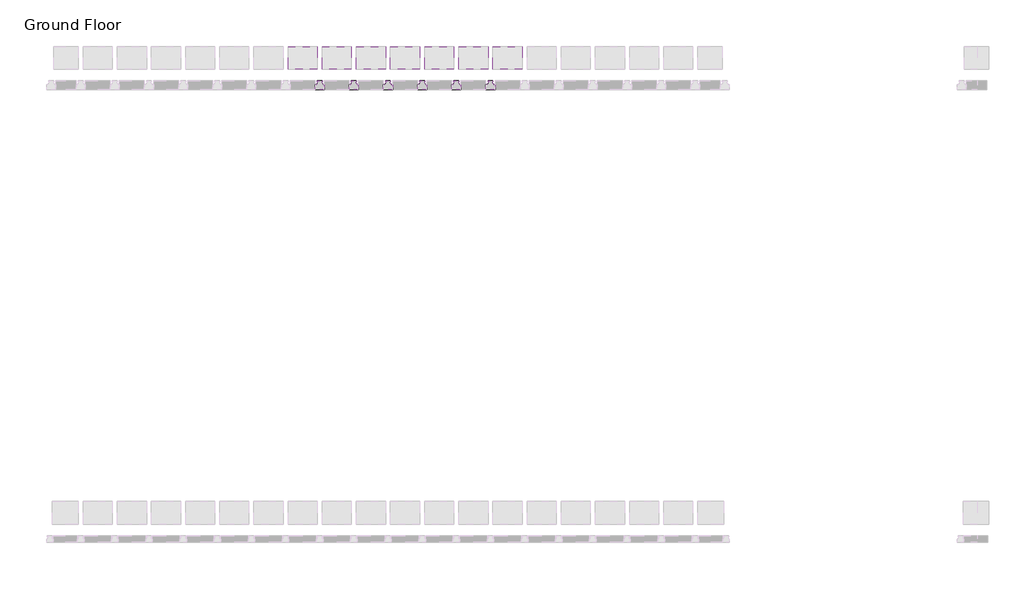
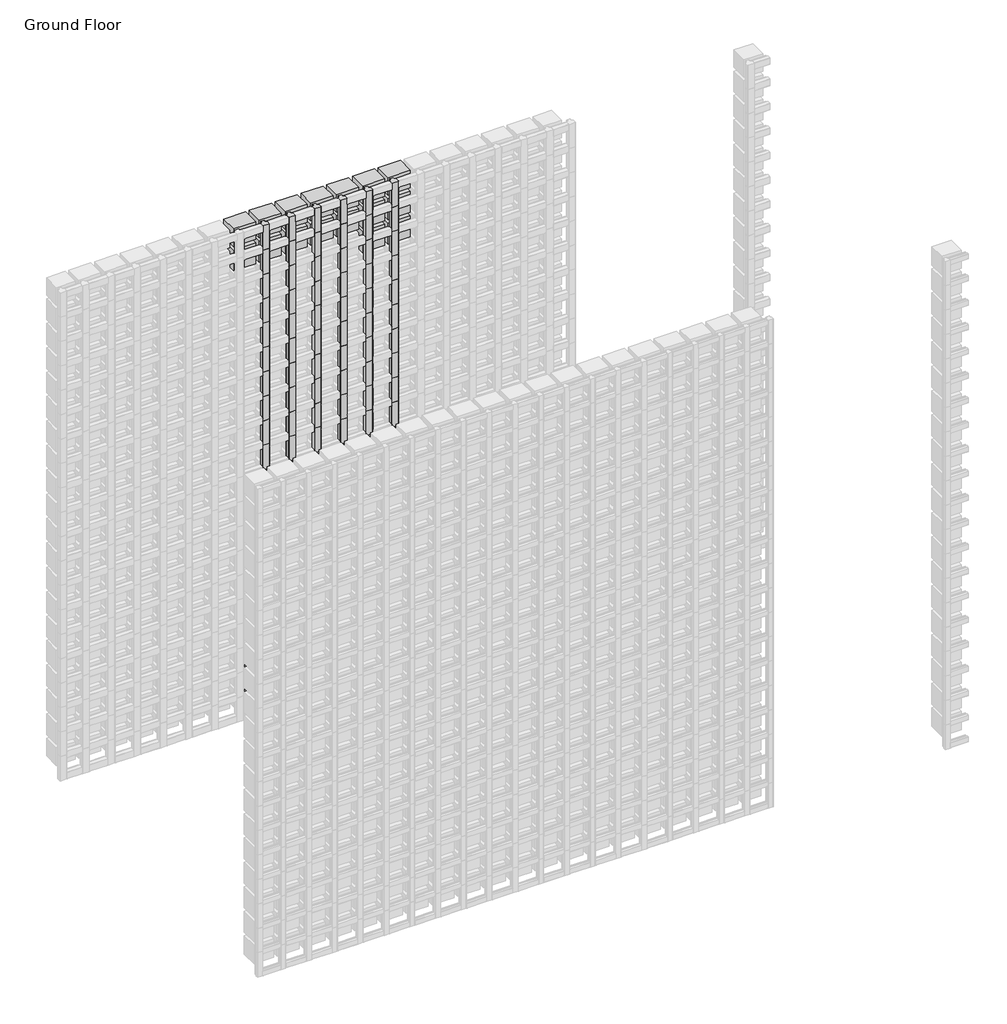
# One storey, part 113 of 350: 128 members, 16 plates.
"""IFC4 building model written with IfcOpenShell, lengths in millimetres."""

from ifc_helpers import new_model, si_unit, origin, place, context, project, spatial, transform, mapped, element, save
from components import rectangular_mullion_84e0df2e, rectangular_mullion_c1c7f7ba, empty_system_panel_empty_5a3607ba, empty_system_panel_empty_5e80e148

model = new_model("IFC4")

# Units and contexts
model_context = context("Model", 3, world=origin())
ifc_project = project(units=[si_unit("LENGTHUNIT", "METRE", prefix="MILLI")], contexts=[model_context])

# Site, building, storey
site = spatial("IfcSite", under=ifc_project)
building = spatial("IfcBuilding", under=site)
storey = spatial("IfcBuildingStorey", under=building, Name="Ground Floor", Elevation=0.0)

# Members
placement = place(None, origin())
rectangular_mullion_shape = rectangular_mullion_84e0df2e(model_context)
element("IfcMember", 1, ObjectType="Rectangular Mullion : Batten_Timber_Modinex_Austratus_Grid_Fin_40x40_AlaskanYellowCedar", at=placement, inside=storey, context=model_context, shape_type="MappedRepresentation", body=[
    mapped(rectangular_mullion_shape, transform((3116.4361642, 44968.2978302, 150.0), x_axis=(1.0, 0.0, 0.0), y_axis=(0.0, -1.0, 0.0), z_axis=(0.0, 0.0, -1.0))),
])
element("IfcMember", 2, ObjectType="Rectangular Mullion : Batten_Timber_Modinex_Austratus_Grid_Fin_40x40_AlaskanYellowCedar", at=placement, inside=storey, context=model_context, shape_type="MappedRepresentation", body=[
    mapped(rectangular_mullion_shape, transform((3116.4361642, 44968.2978302, 300.0), x_axis=(1.0, 0.0, 0.0), y_axis=(0.0, -1.0, 0.0), z_axis=(0.0, 0.0, -1.0))),
])
element("IfcMember", 3, ObjectType="Rectangular Mullion : Batten_Timber_Modinex_Austratus_Grid_Fin_40x40_AlaskanYellowCedar", at=placement, inside=storey, context=model_context, shape_type="MappedRepresentation", body=[
    mapped(rectangular_mullion_shape, transform((3116.4361642, 44968.2978302, 450.0), x_axis=(1.0, 0.0, 0.0), y_axis=(0.0, -1.0, 0.0), z_axis=(0.0, 0.0, -1.0))),
])
element("IfcMember", 4, ObjectType="Rectangular Mullion : Batten_Timber_Modinex_Austratus_Grid_Fin_40x40_AlaskanYellowCedar", at=placement, inside=storey, context=model_context, shape_type="MappedRepresentation", body=[
    mapped(rectangular_mullion_shape, transform((3116.4361642, 44968.2978302, 600.0), x_axis=(1.0, 0.0, 0.0), y_axis=(0.0, -1.0, 0.0), z_axis=(0.0, 0.0, -1.0))),
])
element("IfcMember", 5, ObjectType="Rectangular Mullion : Batten_Timber_Modinex_Austratus_Grid_Fin_40x40_AlaskanYellowCedar", at=placement, inside=storey, context=model_context, shape_type="MappedRepresentation", body=[
    mapped(rectangular_mullion_shape, transform((3116.4361642, 44968.2978302, 750.0), x_axis=(1.0, 0.0, 0.0), y_axis=(0.0, -1.0, 0.0), z_axis=(0.0, 0.0, -1.0))),
])
element("IfcMember", 6, ObjectType="Rectangular Mullion : Batten_Timber_Modinex_Austratus_Grid_Fin_40x40_AlaskanYellowCedar", at=placement, inside=storey, context=model_context, shape_type="MappedRepresentation", body=[
    mapped(rectangular_mullion_shape, transform((3116.4361642, 44968.2978302, 900.0), x_axis=(1.0, 0.0, 0.0), y_axis=(0.0, -1.0, 0.0), z_axis=(0.0, 0.0, -1.0))),
])
element("IfcMember", 7, ObjectType="Rectangular Mullion : Batten_Timber_Modinex_Austratus_Grid_Fin_40x40_AlaskanYellowCedar", at=placement, inside=storey, context=model_context, shape_type="MappedRepresentation", body=[
    mapped(rectangular_mullion_shape, transform((3116.4361642, 44968.2978302, 1050.0), x_axis=(1.0, 0.0, 0.0), y_axis=(0.0, -1.0, 0.0), z_axis=(0.0, 0.0, -1.0))),
])
element("IfcMember", 8, ObjectType="Rectangular Mullion : Batten_Timber_Modinex_Austratus_Grid_Fin_40x40_AlaskanYellowCedar", at=placement, inside=storey, context=model_context, shape_type="MappedRepresentation", body=[
    mapped(rectangular_mullion_shape, transform((3116.4361642, 44968.2978302, 1200.0), x_axis=(1.0, 0.0, 0.0), y_axis=(0.0, -1.0, 0.0), z_axis=(0.0, 0.0, -1.0))),
])
element("IfcMember", 9, ObjectType="Rectangular Mullion : Batten_Timber_Modinex_Austratus_Grid_Fin_40x40_AlaskanYellowCedar", at=placement, inside=storey, context=model_context, shape_type="MappedRepresentation", body=[
    mapped(rectangular_mullion_shape, transform((3116.4361642, 44968.2978302, 1350.0), x_axis=(1.0, 0.0, 0.0), y_axis=(0.0, -1.0, 0.0), z_axis=(0.0, 0.0, -1.0))),
])
element("IfcMember", 10, ObjectType="Rectangular Mullion : Batten_Timber_Modinex_Austratus_Grid_Fin_40x40_AlaskanYellowCedar", at=placement, inside=storey, context=model_context, shape_type="MappedRepresentation", body=[
    mapped(rectangular_mullion_shape, transform((3116.4361642, 44968.2978302, 1500.0), x_axis=(1.0, 0.0, 0.0), y_axis=(0.0, -1.0, 0.0), z_axis=(0.0, 0.0, -1.0))),
])
element("IfcMember", 11, ObjectType="Rectangular Mullion : Batten_Timber_Modinex_Austratus_Grid_Fin_40x40_AlaskanYellowCedar", at=placement, inside=storey, context=model_context, shape_type="MappedRepresentation", body=[
    mapped(rectangular_mullion_shape, transform((3116.4361642, 44968.2978302, 1650.0), x_axis=(1.0, 0.0, 0.0), y_axis=(0.0, -1.0, 0.0), z_axis=(0.0, 0.0, -1.0))),
])
element("IfcMember", 12, ObjectType="Rectangular Mullion : Batten_Timber_Modinex_Austratus_Grid_Fin_40x40_AlaskanYellowCedar", at=placement, inside=storey, context=model_context, shape_type="MappedRepresentation", body=[
    mapped(rectangular_mullion_shape, transform((3116.4361642, 44968.2978302, 1800.0), x_axis=(1.0, 0.0, 0.0), y_axis=(0.0, -1.0, 0.0), z_axis=(0.0, 0.0, -1.0))),
])
element("IfcMember", 13, ObjectType="Rectangular Mullion : Batten_Timber_Modinex_Austratus_Grid_Fin_40x40_AlaskanYellowCedar", at=placement, inside=storey, context=model_context, shape_type="MappedRepresentation", body=[
    mapped(rectangular_mullion_shape, transform((3116.4361642, 44968.2978302, 1950.0), x_axis=(1.0, 0.0, 0.0), y_axis=(0.0, -1.0, 0.0), z_axis=(0.0, 0.0, -1.0))),
])
element("IfcMember", 14, ObjectType="Rectangular Mullion : Batten_Timber_Modinex_Austratus_Grid_Fin_40x40_AlaskanYellowCedar", at=placement, inside=storey, context=model_context, shape_type="MappedRepresentation", body=[
    mapped(rectangular_mullion_shape, transform((3116.4361642, 44968.2978302, 2100.0), x_axis=(1.0, 0.0, 0.0), y_axis=(0.0, -1.0, 0.0), z_axis=(0.0, 0.0, -1.0))),
])
element("IfcMember", 15, ObjectType="Rectangular Mullion : Batten_Timber_Modinex_Austratus_Grid_Fin_40x40_AlaskanYellowCedar", at=placement, inside=storey, context=model_context, shape_type="MappedRepresentation", body=[
    mapped(rectangular_mullion_shape, transform((3116.4361642, 44968.2978302, 2250.0), x_axis=(1.0, 0.0, 0.0), y_axis=(0.0, -1.0, 0.0), z_axis=(0.0, 0.0, -1.0))),
])
element("IfcMember", 16, ObjectType="Rectangular Mullion : Batten_Timber_Modinex_Austratus_Grid_Fin_40x40_AlaskanYellowCedar", at=placement, inside=storey, context=model_context, shape_type="MappedRepresentation", body=[
    mapped(rectangular_mullion_shape, transform((3116.4361642, 44968.2978302, 2400.0), x_axis=(1.0, 0.0, 0.0), y_axis=(0.0, -1.0, 0.0), z_axis=(0.0, 0.0, -1.0))),
])
element("IfcMember", 17, ObjectType="Rectangular Mullion : Batten_Timber_Modinex_Austratus_Grid_Fin_40x40_AlaskanYellowCedar", at=placement, inside=storey, context=model_context, shape_type="MappedRepresentation", body=[
    mapped(rectangular_mullion_shape, transform((3116.4361642, 44968.2978302, 2550.0), x_axis=(1.0, 0.0, 0.0), y_axis=(0.0, -1.0, 0.0), z_axis=(0.0, 0.0, -1.0))),
])
element("IfcMember", 18, ObjectType="Rectangular Mullion : Batten_Timber_Modinex_Austratus_Grid_Fin_40x40_AlaskanYellowCedar", at=placement, inside=storey, context=model_context, shape_type="MappedRepresentation", body=[
    mapped(rectangular_mullion_shape, transform((3116.4361642, 44968.2978302, 2700.0), x_axis=(1.0, 0.0, 0.0), y_axis=(0.0, -1.0, 0.0), z_axis=(0.0, 0.0, -1.0))),
])
element("IfcMember", 19, ObjectType="Rectangular Mullion : Batten_Timber_Modinex_Austratus_Grid_Fin_40x40_AlaskanYellowCedar", at=placement, inside=storey, context=model_context, shape_type="MappedRepresentation", body=[
    mapped(rectangular_mullion_shape, transform((3266.4361642, 44968.2978302, 150.0), x_axis=(1.0, 0.0, 0.0), y_axis=(0.0, -1.0, 0.0), z_axis=(0.0, 0.0, -1.0))),
])
element("IfcMember", 20, ObjectType="Rectangular Mullion : Batten_Timber_Modinex_Austratus_Grid_Fin_40x40_AlaskanYellowCedar", at=placement, inside=storey, context=model_context, shape_type="MappedRepresentation", body=[
    mapped(rectangular_mullion_shape, transform((3266.4361642, 44968.2978302, 300.0), x_axis=(1.0, 0.0, 0.0), y_axis=(0.0, -1.0, 0.0), z_axis=(0.0, 0.0, -1.0))),
])
element("IfcMember", 21, ObjectType="Rectangular Mullion : Batten_Timber_Modinex_Austratus_Grid_Fin_40x40_AlaskanYellowCedar", at=placement, inside=storey, context=model_context, shape_type="MappedRepresentation", body=[
    mapped(rectangular_mullion_shape, transform((3266.4361642, 44968.2978302, 450.0), x_axis=(1.0, 0.0, 0.0), y_axis=(0.0, -1.0, 0.0), z_axis=(0.0, 0.0, -1.0))),
])
element("IfcMember", 22, ObjectType="Rectangular Mullion : Batten_Timber_Modinex_Austratus_Grid_Fin_40x40_AlaskanYellowCedar", at=placement, inside=storey, context=model_context, shape_type="MappedRepresentation", body=[
    mapped(rectangular_mullion_shape, transform((3266.4361642, 44968.2978302, 600.0), x_axis=(1.0, 0.0, 0.0), y_axis=(0.0, -1.0, 0.0), z_axis=(0.0, 0.0, -1.0))),
])
element("IfcMember", 23, ObjectType="Rectangular Mullion : Batten_Timber_Modinex_Austratus_Grid_Fin_40x40_AlaskanYellowCedar", at=placement, inside=storey, context=model_context, shape_type="MappedRepresentation", body=[
    mapped(rectangular_mullion_shape, transform((3266.4361642, 44968.2978302, 750.0), x_axis=(1.0, 0.0, 0.0), y_axis=(0.0, -1.0, 0.0), z_axis=(0.0, 0.0, -1.0))),
])
element("IfcMember", 24, ObjectType="Rectangular Mullion : Batten_Timber_Modinex_Austratus_Grid_Fin_40x40_AlaskanYellowCedar", at=placement, inside=storey, context=model_context, shape_type="MappedRepresentation", body=[
    mapped(rectangular_mullion_shape, transform((3266.4361642, 44968.2978302, 900.0), x_axis=(1.0, 0.0, 0.0), y_axis=(0.0, -1.0, 0.0), z_axis=(0.0, 0.0, -1.0))),
])
element("IfcMember", 25, ObjectType="Rectangular Mullion : Batten_Timber_Modinex_Austratus_Grid_Fin_40x40_AlaskanYellowCedar", at=placement, inside=storey, context=model_context, shape_type="MappedRepresentation", body=[
    mapped(rectangular_mullion_shape, transform((3266.4361642, 44968.2978302, 1050.0), x_axis=(1.0, 0.0, 0.0), y_axis=(0.0, -1.0, 0.0), z_axis=(0.0, 0.0, -1.0))),
])
element("IfcMember", 26, ObjectType="Rectangular Mullion : Batten_Timber_Modinex_Austratus_Grid_Fin_40x40_AlaskanYellowCedar", at=placement, inside=storey, context=model_context, shape_type="MappedRepresentation", body=[
    mapped(rectangular_mullion_shape, transform((3266.4361642, 44968.2978302, 1200.0), x_axis=(1.0, 0.0, 0.0), y_axis=(0.0, -1.0, 0.0), z_axis=(0.0, 0.0, -1.0))),
])
element("IfcMember", 27, ObjectType="Rectangular Mullion : Batten_Timber_Modinex_Austratus_Grid_Fin_40x40_AlaskanYellowCedar", at=placement, inside=storey, context=model_context, shape_type="MappedRepresentation", body=[
    mapped(rectangular_mullion_shape, transform((3266.4361642, 44968.2978302, 1350.0), x_axis=(1.0, 0.0, 0.0), y_axis=(0.0, -1.0, 0.0), z_axis=(0.0, 0.0, -1.0))),
])
element("IfcMember", 28, ObjectType="Rectangular Mullion : Batten_Timber_Modinex_Austratus_Grid_Fin_40x40_AlaskanYellowCedar", at=placement, inside=storey, context=model_context, shape_type="MappedRepresentation", body=[
    mapped(rectangular_mullion_shape, transform((3266.4361642, 44968.2978302, 1500.0), x_axis=(1.0, 0.0, 0.0), y_axis=(0.0, -1.0, 0.0), z_axis=(0.0, 0.0, -1.0))),
])
element("IfcMember", 29, ObjectType="Rectangular Mullion : Batten_Timber_Modinex_Austratus_Grid_Fin_40x40_AlaskanYellowCedar", at=placement, inside=storey, context=model_context, shape_type="MappedRepresentation", body=[
    mapped(rectangular_mullion_shape, transform((3266.4361642, 44968.2978302, 1650.0), x_axis=(1.0, 0.0, 0.0), y_axis=(0.0, -1.0, 0.0), z_axis=(0.0, 0.0, -1.0))),
])
element("IfcMember", 30, ObjectType="Rectangular Mullion : Batten_Timber_Modinex_Austratus_Grid_Fin_40x40_AlaskanYellowCedar", at=placement, inside=storey, context=model_context, shape_type="MappedRepresentation", body=[
    mapped(rectangular_mullion_shape, transform((3266.4361642, 44968.2978302, 1800.0), x_axis=(1.0, 0.0, 0.0), y_axis=(0.0, -1.0, 0.0), z_axis=(0.0, 0.0, -1.0))),
])
element("IfcMember", 31, ObjectType="Rectangular Mullion : Batten_Timber_Modinex_Austratus_Grid_Fin_40x40_AlaskanYellowCedar", at=placement, inside=storey, context=model_context, shape_type="MappedRepresentation", body=[
    mapped(rectangular_mullion_shape, transform((3266.4361642, 44968.2978302, 1950.0), x_axis=(1.0, 0.0, 0.0), y_axis=(0.0, -1.0, 0.0), z_axis=(0.0, 0.0, -1.0))),
])
element("IfcMember", 32, ObjectType="Rectangular Mullion : Batten_Timber_Modinex_Austratus_Grid_Fin_40x40_AlaskanYellowCedar", at=placement, inside=storey, context=model_context, shape_type="MappedRepresentation", body=[
    mapped(rectangular_mullion_shape, transform((3266.4361642, 44968.2978302, 2100.0), x_axis=(1.0, 0.0, 0.0), y_axis=(0.0, -1.0, 0.0), z_axis=(0.0, 0.0, -1.0))),
])
element("IfcMember", 33, ObjectType="Rectangular Mullion : Batten_Timber_Modinex_Austratus_Grid_Fin_40x40_AlaskanYellowCedar", at=placement, inside=storey, context=model_context, shape_type="MappedRepresentation", body=[
    mapped(rectangular_mullion_shape, transform((3266.4361642, 44968.2978302, 2250.0), x_axis=(1.0, 0.0, 0.0), y_axis=(0.0, -1.0, 0.0), z_axis=(0.0, 0.0, -1.0))),
])
element("IfcMember", 34, ObjectType="Rectangular Mullion : Batten_Timber_Modinex_Austratus_Grid_Fin_40x40_AlaskanYellowCedar", at=placement, inside=storey, context=model_context, shape_type="MappedRepresentation", body=[
    mapped(rectangular_mullion_shape, transform((3266.4361642, 44968.2978302, 2400.0), x_axis=(1.0, 0.0, 0.0), y_axis=(0.0, -1.0, 0.0), z_axis=(0.0, 0.0, -1.0))),
])
element("IfcMember", 35, ObjectType="Rectangular Mullion : Batten_Timber_Modinex_Austratus_Grid_Fin_40x40_AlaskanYellowCedar", at=placement, inside=storey, context=model_context, shape_type="MappedRepresentation", body=[
    mapped(rectangular_mullion_shape, transform((3266.4361642, 44968.2978302, 2550.0), x_axis=(1.0, 0.0, 0.0), y_axis=(0.0, -1.0, 0.0), z_axis=(0.0, 0.0, -1.0))),
])
element("IfcMember", 36, ObjectType="Rectangular Mullion : Batten_Timber_Modinex_Austratus_Grid_Fin_40x40_AlaskanYellowCedar", at=placement, inside=storey, context=model_context, shape_type="MappedRepresentation", body=[
    mapped(rectangular_mullion_shape, transform((3266.4361642, 44968.2978302, 2700.0), x_axis=(1.0, 0.0, 0.0), y_axis=(0.0, -1.0, 0.0), z_axis=(0.0, 0.0, -1.0))),
])
element("IfcMember", 37, ObjectType="Rectangular Mullion : Batten_Timber_Modinex_Austratus_Grid_Fin_40x40_AlaskanYellowCedar", at=placement, inside=storey, context=model_context, shape_type="MappedRepresentation", body=[
    mapped(rectangular_mullion_shape, transform((3416.4361642, 44968.2978302, 150.0), x_axis=(1.0, 0.0, 0.0), y_axis=(0.0, -1.0, 0.0), z_axis=(0.0, 0.0, -1.0))),
])
element("IfcMember", 38, ObjectType="Rectangular Mullion : Batten_Timber_Modinex_Austratus_Grid_Fin_40x40_AlaskanYellowCedar", at=placement, inside=storey, context=model_context, shape_type="MappedRepresentation", body=[
    mapped(rectangular_mullion_shape, transform((3416.4361642, 44968.2978302, 300.0), x_axis=(1.0, 0.0, 0.0), y_axis=(0.0, -1.0, 0.0), z_axis=(0.0, 0.0, -1.0))),
])
element("IfcMember", 39, ObjectType="Rectangular Mullion : Batten_Timber_Modinex_Austratus_Grid_Fin_40x40_AlaskanYellowCedar", at=placement, inside=storey, context=model_context, shape_type="MappedRepresentation", body=[
    mapped(rectangular_mullion_shape, transform((3416.4361642, 44968.2978302, 450.0), x_axis=(1.0, 0.0, 0.0), y_axis=(0.0, -1.0, 0.0), z_axis=(0.0, 0.0, -1.0))),
])
element("IfcMember", 40, ObjectType="Rectangular Mullion : Batten_Timber_Modinex_Austratus_Grid_Fin_40x40_AlaskanYellowCedar", at=placement, inside=storey, context=model_context, shape_type="MappedRepresentation", body=[
    mapped(rectangular_mullion_shape, transform((3416.4361642, 44968.2978302, 600.0), x_axis=(1.0, 0.0, 0.0), y_axis=(0.0, -1.0, 0.0), z_axis=(0.0, 0.0, -1.0))),
])
element("IfcMember", 41, ObjectType="Rectangular Mullion : Batten_Timber_Modinex_Austratus_Grid_Fin_40x40_AlaskanYellowCedar", at=placement, inside=storey, context=model_context, shape_type="MappedRepresentation", body=[
    mapped(rectangular_mullion_shape, transform((3416.4361642, 44968.2978302, 750.0), x_axis=(1.0, 0.0, 0.0), y_axis=(0.0, -1.0, 0.0), z_axis=(0.0, 0.0, -1.0))),
])
element("IfcMember", 42, ObjectType="Rectangular Mullion : Batten_Timber_Modinex_Austratus_Grid_Fin_40x40_AlaskanYellowCedar", at=placement, inside=storey, context=model_context, shape_type="MappedRepresentation", body=[
    mapped(rectangular_mullion_shape, transform((3416.4361642, 44968.2978302, 900.0), x_axis=(1.0, 0.0, 0.0), y_axis=(0.0, -1.0, 0.0), z_axis=(0.0, 0.0, -1.0))),
])
element("IfcMember", 43, ObjectType="Rectangular Mullion : Batten_Timber_Modinex_Austratus_Grid_Fin_40x40_AlaskanYellowCedar", at=placement, inside=storey, context=model_context, shape_type="MappedRepresentation", body=[
    mapped(rectangular_mullion_shape, transform((3416.4361642, 44968.2978302, 1050.0), x_axis=(1.0, 0.0, 0.0), y_axis=(0.0, -1.0, 0.0), z_axis=(0.0, 0.0, -1.0))),
])
element("IfcMember", 44, ObjectType="Rectangular Mullion : Batten_Timber_Modinex_Austratus_Grid_Fin_40x40_AlaskanYellowCedar", at=placement, inside=storey, context=model_context, shape_type="MappedRepresentation", body=[
    mapped(rectangular_mullion_shape, transform((3416.4361642, 44968.2978302, 1200.0), x_axis=(1.0, 0.0, 0.0), y_axis=(0.0, -1.0, 0.0), z_axis=(0.0, 0.0, -1.0))),
])
element("IfcMember", 45, ObjectType="Rectangular Mullion : Batten_Timber_Modinex_Austratus_Grid_Fin_40x40_AlaskanYellowCedar", at=placement, inside=storey, context=model_context, shape_type="MappedRepresentation", body=[
    mapped(rectangular_mullion_shape, transform((3416.4361642, 44968.2978302, 1350.0), x_axis=(1.0, 0.0, 0.0), y_axis=(0.0, -1.0, 0.0), z_axis=(0.0, 0.0, -1.0))),
])
element("IfcMember", 46, ObjectType="Rectangular Mullion : Batten_Timber_Modinex_Austratus_Grid_Fin_40x40_AlaskanYellowCedar", at=placement, inside=storey, context=model_context, shape_type="MappedRepresentation", body=[
    mapped(rectangular_mullion_shape, transform((3416.4361642, 44968.2978302, 1500.0), x_axis=(1.0, 0.0, 0.0), y_axis=(0.0, -1.0, 0.0), z_axis=(0.0, 0.0, -1.0))),
])
element("IfcMember", 47, ObjectType="Rectangular Mullion : Batten_Timber_Modinex_Austratus_Grid_Fin_40x40_AlaskanYellowCedar", at=placement, inside=storey, context=model_context, shape_type="MappedRepresentation", body=[
    mapped(rectangular_mullion_shape, transform((3416.4361642, 44968.2978302, 1650.0), x_axis=(1.0, 0.0, 0.0), y_axis=(0.0, -1.0, 0.0), z_axis=(0.0, 0.0, -1.0))),
])
element("IfcMember", 48, ObjectType="Rectangular Mullion : Batten_Timber_Modinex_Austratus_Grid_Fin_40x40_AlaskanYellowCedar", at=placement, inside=storey, context=model_context, shape_type="MappedRepresentation", body=[
    mapped(rectangular_mullion_shape, transform((3416.4361642, 44968.2978302, 1800.0), x_axis=(1.0, 0.0, 0.0), y_axis=(0.0, -1.0, 0.0), z_axis=(0.0, 0.0, -1.0))),
])
element("IfcMember", 49, ObjectType="Rectangular Mullion : Batten_Timber_Modinex_Austratus_Grid_Fin_40x40_AlaskanYellowCedar", at=placement, inside=storey, context=model_context, shape_type="MappedRepresentation", body=[
    mapped(rectangular_mullion_shape, transform((3416.4361642, 44968.2978302, 1950.0), x_axis=(1.0, 0.0, 0.0), y_axis=(0.0, -1.0, 0.0), z_axis=(0.0, 0.0, -1.0))),
])
element("IfcMember", 50, ObjectType="Rectangular Mullion : Batten_Timber_Modinex_Austratus_Grid_Fin_40x40_AlaskanYellowCedar", at=placement, inside=storey, context=model_context, shape_type="MappedRepresentation", body=[
    mapped(rectangular_mullion_shape, transform((3416.4361642, 44968.2978302, 2100.0), x_axis=(1.0, 0.0, 0.0), y_axis=(0.0, -1.0, 0.0), z_axis=(0.0, 0.0, -1.0))),
])
element("IfcMember", 51, ObjectType="Rectangular Mullion : Batten_Timber_Modinex_Austratus_Grid_Fin_40x40_AlaskanYellowCedar", at=placement, inside=storey, context=model_context, shape_type="MappedRepresentation", body=[
    mapped(rectangular_mullion_shape, transform((3416.4361642, 44968.2978302, 2250.0), x_axis=(1.0, 0.0, 0.0), y_axis=(0.0, -1.0, 0.0), z_axis=(0.0, 0.0, -1.0))),
])
element("IfcMember", 52, ObjectType="Rectangular Mullion : Batten_Timber_Modinex_Austratus_Grid_Fin_40x40_AlaskanYellowCedar", at=placement, inside=storey, context=model_context, shape_type="MappedRepresentation", body=[
    mapped(rectangular_mullion_shape, transform((3416.4361642, 44968.2978302, 2400.0), x_axis=(1.0, 0.0, 0.0), y_axis=(0.0, -1.0, 0.0), z_axis=(0.0, 0.0, -1.0))),
])
element("IfcMember", 53, ObjectType="Rectangular Mullion : Batten_Timber_Modinex_Austratus_Grid_Fin_40x40_AlaskanYellowCedar", at=placement, inside=storey, context=model_context, shape_type="MappedRepresentation", body=[
    mapped(rectangular_mullion_shape, transform((3416.4361642, 44968.2978302, 2550.0), x_axis=(1.0, 0.0, 0.0), y_axis=(0.0, -1.0, 0.0), z_axis=(0.0, 0.0, -1.0))),
])
element("IfcMember", 54, ObjectType="Rectangular Mullion : Batten_Timber_Modinex_Austratus_Grid_Fin_40x40_AlaskanYellowCedar", at=placement, inside=storey, context=model_context, shape_type="MappedRepresentation", body=[
    mapped(rectangular_mullion_shape, transform((3416.4361642, 44968.2978302, 2700.0), x_axis=(1.0, 0.0, 0.0), y_axis=(0.0, -1.0, 0.0), z_axis=(0.0, 0.0, -1.0))),
])
element("IfcMember", 55, ObjectType="Rectangular Mullion : Batten_Timber_Modinex_Austratus_Grid_Fin_40x40_AlaskanYellowCedar", at=placement, inside=storey, context=model_context, shape_type="MappedRepresentation", body=[
    mapped(rectangular_mullion_shape, transform((3566.4361642, 44968.2978302, 150.0), x_axis=(1.0, 0.0, 0.0), y_axis=(0.0, -1.0, 0.0), z_axis=(0.0, 0.0, -1.0))),
])
element("IfcMember", 56, ObjectType="Rectangular Mullion : Batten_Timber_Modinex_Austratus_Grid_Fin_40x40_AlaskanYellowCedar", at=placement, inside=storey, context=model_context, shape_type="MappedRepresentation", body=[
    mapped(rectangular_mullion_shape, transform((3566.4361642, 44968.2978302, 300.0), x_axis=(1.0, 0.0, 0.0), y_axis=(0.0, -1.0, 0.0), z_axis=(0.0, 0.0, -1.0))),
])
element("IfcMember", 57, ObjectType="Rectangular Mullion : Batten_Timber_Modinex_Austratus_Grid_Fin_40x40_AlaskanYellowCedar", at=placement, inside=storey, context=model_context, shape_type="MappedRepresentation", body=[
    mapped(rectangular_mullion_shape, transform((3566.4361642, 44968.2978302, 450.0), x_axis=(1.0, 0.0, 0.0), y_axis=(0.0, -1.0, 0.0), z_axis=(0.0, 0.0, -1.0))),
])
element("IfcMember", 58, ObjectType="Rectangular Mullion : Batten_Timber_Modinex_Austratus_Grid_Fin_40x40_AlaskanYellowCedar", at=placement, inside=storey, context=model_context, shape_type="MappedRepresentation", body=[
    mapped(rectangular_mullion_shape, transform((3566.4361642, 44968.2978302, 600.0), x_axis=(1.0, 0.0, 0.0), y_axis=(0.0, -1.0, 0.0), z_axis=(0.0, 0.0, -1.0))),
])
element("IfcMember", 59, ObjectType="Rectangular Mullion : Batten_Timber_Modinex_Austratus_Grid_Fin_40x40_AlaskanYellowCedar", at=placement, inside=storey, context=model_context, shape_type="MappedRepresentation", body=[
    mapped(rectangular_mullion_shape, transform((3566.4361642, 44968.2978302, 750.0), x_axis=(1.0, 0.0, 0.0), y_axis=(0.0, -1.0, 0.0), z_axis=(0.0, 0.0, -1.0))),
])
element("IfcMember", 60, ObjectType="Rectangular Mullion : Batten_Timber_Modinex_Austratus_Grid_Fin_40x40_AlaskanYellowCedar", at=placement, inside=storey, context=model_context, shape_type="MappedRepresentation", body=[
    mapped(rectangular_mullion_shape, transform((3566.4361642, 44968.2978302, 900.0), x_axis=(1.0, 0.0, 0.0), y_axis=(0.0, -1.0, 0.0), z_axis=(0.0, 0.0, -1.0))),
])
element("IfcMember", 61, ObjectType="Rectangular Mullion : Batten_Timber_Modinex_Austratus_Grid_Fin_40x40_AlaskanYellowCedar", at=placement, inside=storey, context=model_context, shape_type="MappedRepresentation", body=[
    mapped(rectangular_mullion_shape, transform((3566.4361642, 44968.2978302, 1050.0), x_axis=(1.0, 0.0, 0.0), y_axis=(0.0, -1.0, 0.0), z_axis=(0.0, 0.0, -1.0))),
])
element("IfcMember", 62, ObjectType="Rectangular Mullion : Batten_Timber_Modinex_Austratus_Grid_Fin_40x40_AlaskanYellowCedar", at=placement, inside=storey, context=model_context, shape_type="MappedRepresentation", body=[
    mapped(rectangular_mullion_shape, transform((3566.4361642, 44968.2978302, 1200.0), x_axis=(1.0, 0.0, 0.0), y_axis=(0.0, -1.0, 0.0), z_axis=(0.0, 0.0, -1.0))),
])
element("IfcMember", 63, ObjectType="Rectangular Mullion : Batten_Timber_Modinex_Austratus_Grid_Fin_40x40_AlaskanYellowCedar", at=placement, inside=storey, context=model_context, shape_type="MappedRepresentation", body=[
    mapped(rectangular_mullion_shape, transform((3566.4361642, 44968.2978302, 1350.0), x_axis=(1.0, 0.0, 0.0), y_axis=(0.0, -1.0, 0.0), z_axis=(0.0, 0.0, -1.0))),
])
element("IfcMember", 64, ObjectType="Rectangular Mullion : Batten_Timber_Modinex_Austratus_Grid_Fin_40x40_AlaskanYellowCedar", at=placement, inside=storey, context=model_context, shape_type="MappedRepresentation", body=[
    mapped(rectangular_mullion_shape, transform((3566.4361642, 44968.2978302, 1500.0), x_axis=(1.0, 0.0, 0.0), y_axis=(0.0, -1.0, 0.0), z_axis=(0.0, 0.0, -1.0))),
])
element("IfcMember", 65, ObjectType="Rectangular Mullion : Batten_Timber_Modinex_Austratus_Grid_Fin_40x40_AlaskanYellowCedar", at=placement, inside=storey, context=model_context, shape_type="MappedRepresentation", body=[
    mapped(rectangular_mullion_shape, transform((3566.4361642, 44968.2978302, 1650.0), x_axis=(1.0, 0.0, 0.0), y_axis=(0.0, -1.0, 0.0), z_axis=(0.0, 0.0, -1.0))),
])
element("IfcMember", 66, ObjectType="Rectangular Mullion : Batten_Timber_Modinex_Austratus_Grid_Fin_40x40_AlaskanYellowCedar", at=placement, inside=storey, context=model_context, shape_type="MappedRepresentation", body=[
    mapped(rectangular_mullion_shape, transform((3566.4361642, 44968.2978302, 1800.0), x_axis=(1.0, 0.0, 0.0), y_axis=(0.0, -1.0, 0.0), z_axis=(0.0, 0.0, -1.0))),
])
element("IfcMember", 67, ObjectType="Rectangular Mullion : Batten_Timber_Modinex_Austratus_Grid_Fin_40x40_AlaskanYellowCedar", at=placement, inside=storey, context=model_context, shape_type="MappedRepresentation", body=[
    mapped(rectangular_mullion_shape, transform((3566.4361642, 44968.2978302, 1950.0), x_axis=(1.0, 0.0, 0.0), y_axis=(0.0, -1.0, 0.0), z_axis=(0.0, 0.0, -1.0))),
])
element("IfcMember", 68, ObjectType="Rectangular Mullion : Batten_Timber_Modinex_Austratus_Grid_Fin_40x40_AlaskanYellowCedar", at=placement, inside=storey, context=model_context, shape_type="MappedRepresentation", body=[
    mapped(rectangular_mullion_shape, transform((3566.4361642, 44968.2978302, 2100.0), x_axis=(1.0, 0.0, 0.0), y_axis=(0.0, -1.0, 0.0), z_axis=(0.0, 0.0, -1.0))),
])
element("IfcMember", 69, ObjectType="Rectangular Mullion : Batten_Timber_Modinex_Austratus_Grid_Fin_40x40_AlaskanYellowCedar", at=placement, inside=storey, context=model_context, shape_type="MappedRepresentation", body=[
    mapped(rectangular_mullion_shape, transform((3566.4361642, 44968.2978302, 2250.0), x_axis=(1.0, 0.0, 0.0), y_axis=(0.0, -1.0, 0.0), z_axis=(0.0, 0.0, -1.0))),
])
element("IfcMember", 70, ObjectType="Rectangular Mullion : Batten_Timber_Modinex_Austratus_Grid_Fin_40x40_AlaskanYellowCedar", at=placement, inside=storey, context=model_context, shape_type="MappedRepresentation", body=[
    mapped(rectangular_mullion_shape, transform((3566.4361642, 44968.2978302, 2400.0), x_axis=(1.0, 0.0, 0.0), y_axis=(0.0, -1.0, 0.0), z_axis=(0.0, 0.0, -1.0))),
])
element("IfcMember", 71, ObjectType="Rectangular Mullion : Batten_Timber_Modinex_Austratus_Grid_Fin_40x40_AlaskanYellowCedar", at=placement, inside=storey, context=model_context, shape_type="MappedRepresentation", body=[
    mapped(rectangular_mullion_shape, transform((3566.4361642, 44968.2978302, 2550.0), x_axis=(1.0, 0.0, 0.0), y_axis=(0.0, -1.0, 0.0), z_axis=(0.0, 0.0, -1.0))),
])
element("IfcMember", 72, ObjectType="Rectangular Mullion : Batten_Timber_Modinex_Austratus_Grid_Fin_40x40_AlaskanYellowCedar", at=placement, inside=storey, context=model_context, shape_type="MappedRepresentation", body=[
    mapped(rectangular_mullion_shape, transform((3566.4361642, 44968.2978302, 2700.0), x_axis=(1.0, 0.0, 0.0), y_axis=(0.0, -1.0, 0.0), z_axis=(0.0, 0.0, -1.0))),
])
element("IfcMember", 73, ObjectType="Rectangular Mullion : Batten_Timber_Modinex_Austratus_Grid_Fin_40x40_AlaskanYellowCedar", at=placement, inside=storey, context=model_context, shape_type="MappedRepresentation", body=[
    mapped(rectangular_mullion_shape, transform((3716.4361642, 44968.2978302, 150.0), x_axis=(1.0, 0.0, 0.0), y_axis=(0.0, -1.0, 0.0), z_axis=(0.0, 0.0, -1.0))),
])
element("IfcMember", 74, ObjectType="Rectangular Mullion : Batten_Timber_Modinex_Austratus_Grid_Fin_40x40_AlaskanYellowCedar", at=placement, inside=storey, context=model_context, shape_type="MappedRepresentation", body=[
    mapped(rectangular_mullion_shape, transform((3716.4361642, 44968.2978302, 300.0), x_axis=(1.0, 0.0, 0.0), y_axis=(0.0, -1.0, 0.0), z_axis=(0.0, 0.0, -1.0))),
])
element("IfcMember", 75, ObjectType="Rectangular Mullion : Batten_Timber_Modinex_Austratus_Grid_Fin_40x40_AlaskanYellowCedar", at=placement, inside=storey, context=model_context, shape_type="MappedRepresentation", body=[
    mapped(rectangular_mullion_shape, transform((3716.4361642, 44968.2978302, 450.0), x_axis=(1.0, 0.0, 0.0), y_axis=(0.0, -1.0, 0.0), z_axis=(0.0, 0.0, -1.0))),
])
element("IfcMember", 76, ObjectType="Rectangular Mullion : Batten_Timber_Modinex_Austratus_Grid_Fin_40x40_AlaskanYellowCedar", at=placement, inside=storey, context=model_context, shape_type="MappedRepresentation", body=[
    mapped(rectangular_mullion_shape, transform((3716.4361642, 44968.2978302, 600.0), x_axis=(1.0, 0.0, 0.0), y_axis=(0.0, -1.0, 0.0), z_axis=(0.0, 0.0, -1.0))),
])
element("IfcMember", 77, ObjectType="Rectangular Mullion : Batten_Timber_Modinex_Austratus_Grid_Fin_40x40_AlaskanYellowCedar", at=placement, inside=storey, context=model_context, shape_type="MappedRepresentation", body=[
    mapped(rectangular_mullion_shape, transform((3716.4361642, 44968.2978302, 750.0), x_axis=(1.0, 0.0, 0.0), y_axis=(0.0, -1.0, 0.0), z_axis=(0.0, 0.0, -1.0))),
])
element("IfcMember", 78, ObjectType="Rectangular Mullion : Batten_Timber_Modinex_Austratus_Grid_Fin_40x40_AlaskanYellowCedar", at=placement, inside=storey, context=model_context, shape_type="MappedRepresentation", body=[
    mapped(rectangular_mullion_shape, transform((3716.4361642, 44968.2978302, 900.0), x_axis=(1.0, 0.0, 0.0), y_axis=(0.0, -1.0, 0.0), z_axis=(0.0, 0.0, -1.0))),
])
element("IfcMember", 79, ObjectType="Rectangular Mullion : Batten_Timber_Modinex_Austratus_Grid_Fin_40x40_AlaskanYellowCedar", at=placement, inside=storey, context=model_context, shape_type="MappedRepresentation", body=[
    mapped(rectangular_mullion_shape, transform((3716.4361642, 44968.2978302, 1050.0), x_axis=(1.0, 0.0, 0.0), y_axis=(0.0, -1.0, 0.0), z_axis=(0.0, 0.0, -1.0))),
])
element("IfcMember", 80, ObjectType="Rectangular Mullion : Batten_Timber_Modinex_Austratus_Grid_Fin_40x40_AlaskanYellowCedar", at=placement, inside=storey, context=model_context, shape_type="MappedRepresentation", body=[
    mapped(rectangular_mullion_shape, transform((3716.4361642, 44968.2978302, 1200.0), x_axis=(1.0, 0.0, 0.0), y_axis=(0.0, -1.0, 0.0), z_axis=(0.0, 0.0, -1.0))),
])
element("IfcMember", 81, ObjectType="Rectangular Mullion : Batten_Timber_Modinex_Austratus_Grid_Fin_40x40_AlaskanYellowCedar", at=placement, inside=storey, context=model_context, shape_type="MappedRepresentation", body=[
    mapped(rectangular_mullion_shape, transform((3716.4361642, 44968.2978302, 1350.0), x_axis=(1.0, 0.0, 0.0), y_axis=(0.0, -1.0, 0.0), z_axis=(0.0, 0.0, -1.0))),
])
element("IfcMember", 82, ObjectType="Rectangular Mullion : Batten_Timber_Modinex_Austratus_Grid_Fin_40x40_AlaskanYellowCedar", at=placement, inside=storey, context=model_context, shape_type="MappedRepresentation", body=[
    mapped(rectangular_mullion_shape, transform((3716.4361642, 44968.2978302, 1500.0), x_axis=(1.0, 0.0, 0.0), y_axis=(0.0, -1.0, 0.0), z_axis=(0.0, 0.0, -1.0))),
])
element("IfcMember", 83, ObjectType="Rectangular Mullion : Batten_Timber_Modinex_Austratus_Grid_Fin_40x40_AlaskanYellowCedar", at=placement, inside=storey, context=model_context, shape_type="MappedRepresentation", body=[
    mapped(rectangular_mullion_shape, transform((3716.4361642, 44968.2978302, 1650.0), x_axis=(1.0, 0.0, 0.0), y_axis=(0.0, -1.0, 0.0), z_axis=(0.0, 0.0, -1.0))),
])
element("IfcMember", 84, ObjectType="Rectangular Mullion : Batten_Timber_Modinex_Austratus_Grid_Fin_40x40_AlaskanYellowCedar", at=placement, inside=storey, context=model_context, shape_type="MappedRepresentation", body=[
    mapped(rectangular_mullion_shape, transform((3716.4361642, 44968.2978302, 1800.0), x_axis=(1.0, 0.0, 0.0), y_axis=(0.0, -1.0, 0.0), z_axis=(0.0, 0.0, -1.0))),
])
element("IfcMember", 85, ObjectType="Rectangular Mullion : Batten_Timber_Modinex_Austratus_Grid_Fin_40x40_AlaskanYellowCedar", at=placement, inside=storey, context=model_context, shape_type="MappedRepresentation", body=[
    mapped(rectangular_mullion_shape, transform((3716.4361642, 44968.2978302, 1950.0), x_axis=(1.0, 0.0, 0.0), y_axis=(0.0, -1.0, 0.0), z_axis=(0.0, 0.0, -1.0))),
])
element("IfcMember", 86, ObjectType="Rectangular Mullion : Batten_Timber_Modinex_Austratus_Grid_Fin_40x40_AlaskanYellowCedar", at=placement, inside=storey, context=model_context, shape_type="MappedRepresentation", body=[
    mapped(rectangular_mullion_shape, transform((3716.4361642, 44968.2978302, 2100.0), x_axis=(1.0, 0.0, 0.0), y_axis=(0.0, -1.0, 0.0), z_axis=(0.0, 0.0, -1.0))),
])
element("IfcMember", 87, ObjectType="Rectangular Mullion : Batten_Timber_Modinex_Austratus_Grid_Fin_40x40_AlaskanYellowCedar", at=placement, inside=storey, context=model_context, shape_type="MappedRepresentation", body=[
    mapped(rectangular_mullion_shape, transform((3716.4361642, 44968.2978302, 2250.0), x_axis=(1.0, 0.0, 0.0), y_axis=(0.0, -1.0, 0.0), z_axis=(0.0, 0.0, -1.0))),
])
element("IfcMember", 88, ObjectType="Rectangular Mullion : Batten_Timber_Modinex_Austratus_Grid_Fin_40x40_AlaskanYellowCedar", at=placement, inside=storey, context=model_context, shape_type="MappedRepresentation", body=[
    mapped(rectangular_mullion_shape, transform((3716.4361642, 44968.2978302, 2400.0), x_axis=(1.0, 0.0, 0.0), y_axis=(0.0, -1.0, 0.0), z_axis=(0.0, 0.0, -1.0))),
])
element("IfcMember", 89, ObjectType="Rectangular Mullion : Batten_Timber_Modinex_Austratus_Grid_Fin_40x40_AlaskanYellowCedar", at=placement, inside=storey, context=model_context, shape_type="MappedRepresentation", body=[
    mapped(rectangular_mullion_shape, transform((3716.4361642, 44968.2978302, 2550.0), x_axis=(1.0, 0.0, 0.0), y_axis=(0.0, -1.0, 0.0), z_axis=(0.0, 0.0, -1.0))),
])
element("IfcMember", 90, ObjectType="Rectangular Mullion : Batten_Timber_Modinex_Austratus_Grid_Fin_40x40_AlaskanYellowCedar", at=placement, inside=storey, context=model_context, shape_type="MappedRepresentation", body=[
    mapped(rectangular_mullion_shape, transform((3716.4361642, 44968.2978302, 2700.0), x_axis=(1.0, 0.0, 0.0), y_axis=(0.0, -1.0, 0.0), z_axis=(0.0, 0.0, -1.0))),
])
element("IfcMember", 91, ObjectType="Rectangular Mullion : Batten_Timber_Modinex_Austratus_Grid_Fin_40x40_AlaskanYellowCedar", at=placement, inside=storey, context=model_context, shape_type="MappedRepresentation", body=[
    mapped(rectangular_mullion_shape, transform((3866.4361642, 44968.2978302, 150.0), x_axis=(1.0, 0.0, 0.0), y_axis=(0.0, -1.0, 0.0), z_axis=(0.0, 0.0, -1.0))),
])
element("IfcMember", 92, ObjectType="Rectangular Mullion : Batten_Timber_Modinex_Austratus_Grid_Fin_40x40_AlaskanYellowCedar", at=placement, inside=storey, context=model_context, shape_type="MappedRepresentation", body=[
    mapped(rectangular_mullion_shape, transform((3866.4361642, 44968.2978302, 300.0), x_axis=(1.0, 0.0, 0.0), y_axis=(0.0, -1.0, 0.0), z_axis=(0.0, 0.0, -1.0))),
])
element("IfcMember", 93, ObjectType="Rectangular Mullion : Batten_Timber_Modinex_Austratus_Grid_Fin_40x40_AlaskanYellowCedar", at=placement, inside=storey, context=model_context, shape_type="MappedRepresentation", body=[
    mapped(rectangular_mullion_shape, transform((3866.4361642, 44968.2978302, 450.0), x_axis=(1.0, 0.0, 0.0), y_axis=(0.0, -1.0, 0.0), z_axis=(0.0, 0.0, -1.0))),
])
element("IfcMember", 94, ObjectType="Rectangular Mullion : Batten_Timber_Modinex_Austratus_Grid_Fin_40x40_AlaskanYellowCedar", at=placement, inside=storey, context=model_context, shape_type="MappedRepresentation", body=[
    mapped(rectangular_mullion_shape, transform((3866.4361642, 44968.2978302, 600.0), x_axis=(1.0, 0.0, 0.0), y_axis=(0.0, -1.0, 0.0), z_axis=(0.0, 0.0, -1.0))),
])
element("IfcMember", 95, ObjectType="Rectangular Mullion : Batten_Timber_Modinex_Austratus_Grid_Fin_40x40_AlaskanYellowCedar", at=placement, inside=storey, context=model_context, shape_type="MappedRepresentation", body=[
    mapped(rectangular_mullion_shape, transform((3866.4361642, 44968.2978302, 750.0), x_axis=(1.0, 0.0, 0.0), y_axis=(0.0, -1.0, 0.0), z_axis=(0.0, 0.0, -1.0))),
])
element("IfcMember", 96, ObjectType="Rectangular Mullion : Batten_Timber_Modinex_Austratus_Grid_Fin_40x40_AlaskanYellowCedar", at=placement, inside=storey, context=model_context, shape_type="MappedRepresentation", body=[
    mapped(rectangular_mullion_shape, transform((3866.4361642, 44968.2978302, 900.0), x_axis=(1.0, 0.0, 0.0), y_axis=(0.0, -1.0, 0.0), z_axis=(0.0, 0.0, -1.0))),
])
element("IfcMember", 97, ObjectType="Rectangular Mullion : Batten_Timber_Modinex_Austratus_Grid_Fin_40x40_AlaskanYellowCedar", at=placement, inside=storey, context=model_context, shape_type="MappedRepresentation", body=[
    mapped(rectangular_mullion_shape, transform((3866.4361642, 44968.2978302, 1050.0), x_axis=(1.0, 0.0, 0.0), y_axis=(0.0, -1.0, 0.0), z_axis=(0.0, 0.0, -1.0))),
])
element("IfcMember", 98, ObjectType="Rectangular Mullion : Batten_Timber_Modinex_Austratus_Grid_Fin_40x40_AlaskanYellowCedar", at=placement, inside=storey, context=model_context, shape_type="MappedRepresentation", body=[
    mapped(rectangular_mullion_shape, transform((3866.4361642, 44968.2978302, 1200.0), x_axis=(1.0, 0.0, 0.0), y_axis=(0.0, -1.0, 0.0), z_axis=(0.0, 0.0, -1.0))),
])
element("IfcMember", 99, ObjectType="Rectangular Mullion : Batten_Timber_Modinex_Austratus_Grid_Fin_40x40_AlaskanYellowCedar", at=placement, inside=storey, context=model_context, shape_type="MappedRepresentation", body=[
    mapped(rectangular_mullion_shape, transform((3866.4361642, 44968.2978302, 1350.0), x_axis=(1.0, 0.0, 0.0), y_axis=(0.0, -1.0, 0.0), z_axis=(0.0, 0.0, -1.0))),
])
element("IfcMember", 100, ObjectType="Rectangular Mullion : Batten_Timber_Modinex_Austratus_Grid_Fin_40x40_AlaskanYellowCedar", at=placement, inside=storey, context=model_context, shape_type="MappedRepresentation", body=[
    mapped(rectangular_mullion_shape, transform((3866.4361642, 44968.2978302, 1500.0), x_axis=(1.0, 0.0, 0.0), y_axis=(0.0, -1.0, 0.0), z_axis=(0.0, 0.0, -1.0))),
])
element("IfcMember", 101, ObjectType="Rectangular Mullion : Batten_Timber_Modinex_Austratus_Grid_Fin_40x40_AlaskanYellowCedar", at=placement, inside=storey, context=model_context, shape_type="MappedRepresentation", body=[
    mapped(rectangular_mullion_shape, transform((3866.4361642, 44968.2978302, 1650.0), x_axis=(1.0, 0.0, 0.0), y_axis=(0.0, -1.0, 0.0), z_axis=(0.0, 0.0, -1.0))),
])
element("IfcMember", 102, ObjectType="Rectangular Mullion : Batten_Timber_Modinex_Austratus_Grid_Fin_40x40_AlaskanYellowCedar", at=placement, inside=storey, context=model_context, shape_type="MappedRepresentation", body=[
    mapped(rectangular_mullion_shape, transform((3866.4361642, 44968.2978302, 1800.0), x_axis=(1.0, 0.0, 0.0), y_axis=(0.0, -1.0, 0.0), z_axis=(0.0, 0.0, -1.0))),
])
element("IfcMember", 103, ObjectType="Rectangular Mullion : Batten_Timber_Modinex_Austratus_Grid_Fin_40x40_AlaskanYellowCedar", at=placement, inside=storey, context=model_context, shape_type="MappedRepresentation", body=[
    mapped(rectangular_mullion_shape, transform((3866.4361642, 44968.2978302, 1950.0), x_axis=(1.0, 0.0, 0.0), y_axis=(0.0, -1.0, 0.0), z_axis=(0.0, 0.0, -1.0))),
])
element("IfcMember", 104, ObjectType="Rectangular Mullion : Batten_Timber_Modinex_Austratus_Grid_Fin_40x40_AlaskanYellowCedar", at=placement, inside=storey, context=model_context, shape_type="MappedRepresentation", body=[
    mapped(rectangular_mullion_shape, transform((3866.4361642, 44968.2978302, 2100.0), x_axis=(1.0, 0.0, 0.0), y_axis=(0.0, -1.0, 0.0), z_axis=(0.0, 0.0, -1.0))),
])
element("IfcMember", 105, ObjectType="Rectangular Mullion : Batten_Timber_Modinex_Austratus_Grid_Fin_40x40_AlaskanYellowCedar", at=placement, inside=storey, context=model_context, shape_type="MappedRepresentation", body=[
    mapped(rectangular_mullion_shape, transform((3866.4361642, 44968.2978302, 2250.0), x_axis=(1.0, 0.0, 0.0), y_axis=(0.0, -1.0, 0.0), z_axis=(0.0, 0.0, -1.0))),
])
element("IfcMember", 106, ObjectType="Rectangular Mullion : Batten_Timber_Modinex_Austratus_Grid_Fin_40x40_AlaskanYellowCedar", at=placement, inside=storey, context=model_context, shape_type="MappedRepresentation", body=[
    mapped(rectangular_mullion_shape, transform((3866.4361642, 44968.2978302, 2400.0), x_axis=(1.0, 0.0, 0.0), y_axis=(0.0, -1.0, 0.0), z_axis=(0.0, 0.0, -1.0))),
])
element("IfcMember", 107, ObjectType="Rectangular Mullion : Batten_Timber_Modinex_Austratus_Grid_Fin_40x40_AlaskanYellowCedar", at=placement, inside=storey, context=model_context, shape_type="MappedRepresentation", body=[
    mapped(rectangular_mullion_shape, transform((3866.4361642, 44968.2978302, 2550.0), x_axis=(1.0, 0.0, 0.0), y_axis=(0.0, -1.0, 0.0), z_axis=(0.0, 0.0, -1.0))),
])
element("IfcMember", 108, ObjectType="Rectangular Mullion : Batten_Timber_Modinex_Austratus_Grid_Fin_40x40_AlaskanYellowCedar", at=placement, inside=storey, context=model_context, shape_type="MappedRepresentation", body=[
    mapped(rectangular_mullion_shape, transform((3866.4361642, 44968.2978302, 2700.0), x_axis=(1.0, 0.0, 0.0), y_axis=(0.0, -1.0, 0.0), z_axis=(0.0, 0.0, -1.0))),
])
element("IfcMember", 109, ObjectType="Rectangular Mullion : Batten_Timber_Modinex_Austratus_Grid_Fin_40x40_AlaskanYellowCedar", at=placement, inside=storey, context=model_context, shape_type="MappedRepresentation", body=[
    mapped(rectangular_mullion_shape, transform((3116.4361642, 44968.2978302, 2850.0), x_axis=(1.0, 0.0, 0.0), y_axis=(0.0, -1.0, 0.0), z_axis=(0.0, 0.0, -1.0))),
])
element("IfcMember", 110, ObjectType="Rectangular Mullion : Batten_Timber_Modinex_Austratus_Grid_Fin_40x40_AlaskanYellowCedar", at=placement, inside=storey, context=model_context, shape_type="MappedRepresentation", body=[
    mapped(rectangular_mullion_shape, transform((3266.4361642, 44968.2978302, 2850.0), x_axis=(1.0, 0.0, 0.0), y_axis=(0.0, -1.0, 0.0), z_axis=(0.0, 0.0, -1.0))),
])
element("IfcMember", 111, ObjectType="Rectangular Mullion : Batten_Timber_Modinex_Austratus_Grid_Fin_40x40_AlaskanYellowCedar", at=placement, inside=storey, context=model_context, shape_type="MappedRepresentation", body=[
    mapped(rectangular_mullion_shape, transform((3416.4361642, 44968.2978302, 2850.0), x_axis=(1.0, 0.0, 0.0), y_axis=(0.0, -1.0, 0.0), z_axis=(0.0, 0.0, -1.0))),
])
element("IfcMember", 112, ObjectType="Rectangular Mullion : Batten_Timber_Modinex_Austratus_Grid_Fin_40x40_AlaskanYellowCedar", at=placement, inside=storey, context=model_context, shape_type="MappedRepresentation", body=[
    mapped(rectangular_mullion_shape, transform((3566.4361642, 44968.2978302, 2850.0), x_axis=(1.0, 0.0, 0.0), y_axis=(0.0, -1.0, 0.0), z_axis=(0.0, 0.0, -1.0))),
])
element("IfcMember", 113, ObjectType="Rectangular Mullion : Batten_Timber_Modinex_Austratus_Grid_Fin_40x40_AlaskanYellowCedar", at=placement, inside=storey, context=model_context, shape_type="MappedRepresentation", body=[
    mapped(rectangular_mullion_shape, transform((3716.4361642, 44968.2978302, 2850.0), x_axis=(1.0, 0.0, 0.0), y_axis=(0.0, -1.0, 0.0), z_axis=(0.0, 0.0, -1.0))),
])
element("IfcMember", 114, ObjectType="Rectangular Mullion : Batten_Timber_Modinex_Austratus_Grid_Fin_40x40_AlaskanYellowCedar", at=placement, inside=storey, context=model_context, shape_type="MappedRepresentation", body=[
    mapped(rectangular_mullion_shape, transform((3866.4361642, 44968.2978302, 2850.0), x_axis=(1.0, 0.0, 0.0), y_axis=(0.0, -1.0, 0.0), z_axis=(0.0, 0.0, -1.0))),
])
rectangular_mullion_2_shape = rectangular_mullion_c1c7f7ba(model_context)
element("IfcMember", 115, ObjectType="Rectangular Mullion : Batten_Timber_Modinex_Austratus_Grid_Fin_40x40_AlaskanYellowCedar", at=placement, inside=storey, context=model_context, shape_type="MappedRepresentation", body=[
    mapped(rectangular_mullion_2_shape, transform((3096.4361642, 44968.2978302, 150.0), x_axis=(0.0, 0.0, 1.0), y_axis=(0.0, -1.0, 0.0), z_axis=(1.0, 0.0, 0.0))),
])
element("IfcMember", 116, ObjectType="Rectangular Mullion : Batten_Timber_Modinex_Austratus_Grid_Fin_40x40_AlaskanYellowCedar", at=placement, inside=storey, context=model_context, shape_type="MappedRepresentation", body=[
    mapped(rectangular_mullion_2_shape, transform((3246.4361642, 44968.2978302, 150.0), x_axis=(0.0, 0.0, 1.0), y_axis=(0.0, -1.0, 0.0), z_axis=(1.0, 0.0, 0.0))),
])
element("IfcMember", 117, ObjectType="Rectangular Mullion : Batten_Timber_Modinex_Austratus_Grid_Fin_40x40_AlaskanYellowCedar", at=placement, inside=storey, context=model_context, shape_type="MappedRepresentation", body=[
    mapped(rectangular_mullion_2_shape, transform((3396.4361642, 44968.2978302, 150.0), x_axis=(0.0, 0.0, 1.0), y_axis=(0.0, -1.0, 0.0), z_axis=(1.0, 0.0, 0.0))),
])
element("IfcMember", 118, ObjectType="Rectangular Mullion : Batten_Timber_Modinex_Austratus_Grid_Fin_40x40_AlaskanYellowCedar", at=placement, inside=storey, context=model_context, shape_type="MappedRepresentation", body=[
    mapped(rectangular_mullion_2_shape, transform((3546.4361642, 44968.2978302, 150.0), x_axis=(0.0, 0.0, 1.0), y_axis=(0.0, -1.0, 0.0), z_axis=(1.0, 0.0, 0.0))),
])
element("IfcMember", 119, ObjectType="Rectangular Mullion : Batten_Timber_Modinex_Austratus_Grid_Fin_40x40_AlaskanYellowCedar", at=placement, inside=storey, context=model_context, shape_type="MappedRepresentation", body=[
    mapped(rectangular_mullion_2_shape, transform((3696.4361642, 44968.2978302, 150.0), x_axis=(0.0, 0.0, 1.0), y_axis=(0.0, -1.0, 0.0), z_axis=(1.0, 0.0, 0.0))),
])
element("IfcMember", 120, ObjectType="Rectangular Mullion : Batten_Timber_Modinex_Austratus_Grid_Fin_40x40_AlaskanYellowCedar", at=placement, inside=storey, context=model_context, shape_type="MappedRepresentation", body=[
    mapped(rectangular_mullion_2_shape, transform((3846.4361642, 44968.2978302, 150.0), x_axis=(0.0, 0.0, 1.0), y_axis=(0.0, -1.0, 0.0), z_axis=(1.0, 0.0, 0.0))),
])
element("IfcMember", 121, ObjectType="Rectangular Mullion : Batten_Timber_Modinex_Austratus_Grid_Fin_40x40_AlaskanYellowCedar", at=placement, inside=storey, context=model_context, shape_type="MappedRepresentation", body=[
    mapped(rectangular_mullion_2_shape, transform((3996.4361642, 44968.2978302, 150.0), x_axis=(0.0, 0.0, 1.0), y_axis=(0.0, -1.0, 0.0), z_axis=(1.0, 0.0, 0.0))),
])
element("IfcMember", 122, ObjectType="Rectangular Mullion : Batten_Timber_Modinex_Austratus_Grid_Fin_40x40_AlaskanYellowCedar", at=placement, inside=storey, context=model_context, shape_type="MappedRepresentation", body=[
    mapped(rectangular_mullion_2_shape, transform((3096.4361642, 44968.2978302, 300.0), x_axis=(0.0, 0.0, 1.0), y_axis=(0.0, -1.0, 0.0), z_axis=(1.0, 0.0, 0.0))),
])
element("IfcMember", 123, ObjectType="Rectangular Mullion : Batten_Timber_Modinex_Austratus_Grid_Fin_40x40_AlaskanYellowCedar", at=placement, inside=storey, context=model_context, shape_type="MappedRepresentation", body=[
    mapped(rectangular_mullion_2_shape, transform((3246.4361642, 44968.2978302, 300.0), x_axis=(0.0, 0.0, 1.0), y_axis=(0.0, -1.0, 0.0), z_axis=(1.0, 0.0, 0.0))),
])
element("IfcMember", 124, ObjectType="Rectangular Mullion : Batten_Timber_Modinex_Austratus_Grid_Fin_40x40_AlaskanYellowCedar", at=placement, inside=storey, context=model_context, shape_type="MappedRepresentation", body=[
    mapped(rectangular_mullion_2_shape, transform((3396.4361642, 44968.2978302, 300.0), x_axis=(0.0, 0.0, 1.0), y_axis=(0.0, -1.0, 0.0), z_axis=(1.0, 0.0, 0.0))),
])
element("IfcMember", 125, ObjectType="Rectangular Mullion : Batten_Timber_Modinex_Austratus_Grid_Fin_40x40_AlaskanYellowCedar", at=placement, inside=storey, context=model_context, shape_type="MappedRepresentation", body=[
    mapped(rectangular_mullion_2_shape, transform((3546.4361642, 44968.2978302, 300.0), x_axis=(0.0, 0.0, 1.0), y_axis=(0.0, -1.0, 0.0), z_axis=(1.0, 0.0, 0.0))),
])
element("IfcMember", 126, ObjectType="Rectangular Mullion : Batten_Timber_Modinex_Austratus_Grid_Fin_40x40_AlaskanYellowCedar", at=placement, inside=storey, context=model_context, shape_type="MappedRepresentation", body=[
    mapped(rectangular_mullion_2_shape, transform((3696.4361642, 44968.2978302, 300.0), x_axis=(0.0, 0.0, 1.0), y_axis=(0.0, -1.0, 0.0), z_axis=(1.0, 0.0, 0.0))),
])
element("IfcMember", 127, ObjectType="Rectangular Mullion : Batten_Timber_Modinex_Austratus_Grid_Fin_40x40_AlaskanYellowCedar", at=placement, inside=storey, context=model_context, shape_type="MappedRepresentation", body=[
    mapped(rectangular_mullion_2_shape, transform((3846.4361642, 44968.2978302, 300.0), x_axis=(0.0, 0.0, 1.0), y_axis=(0.0, -1.0, 0.0), z_axis=(1.0, 0.0, 0.0))),
])
element("IfcMember", 128, ObjectType="Rectangular Mullion : Batten_Timber_Modinex_Austratus_Grid_Fin_40x40_AlaskanYellowCedar", at=placement, inside=storey, context=model_context, shape_type="MappedRepresentation", body=[
    mapped(rectangular_mullion_2_shape, transform((3996.4361642, 44968.2978302, 300.0), x_axis=(0.0, 0.0, 1.0), y_axis=(0.0, -1.0, 0.0), z_axis=(1.0, 0.0, 0.0))),
])

# Plates
empty_system_panel_empty_shape = empty_system_panel_empty_5a3607ba(model_context)
element("IfcPlate", 129, ObjectType="Empty System Panel : Empty", at=placement, inside=storey, context=model_context, shape_type="MappedRepresentation", body=[
    mapped(empty_system_panel_empty_shape, transform((3791.4361642, 44968.2978302, 2560.812195), x_axis=(1.0, 0.0, 0.0), y_axis=(0.0, 1.0, 0.0), z_axis=(0.0, 0.0, 1.0))),
])
element("IfcPlate", 130, ObjectType="Empty System Panel : Empty", at=placement, inside=storey, context=model_context, shape_type="MappedRepresentation", body=[
    mapped(empty_system_panel_empty_shape, transform((3941.4361642, 44968.2978302, 2560.812195), x_axis=(1.0, 0.0, 0.0), y_axis=(0.0, 1.0, 0.0), z_axis=(0.0, 0.0, 1.0))),
])
element("IfcPlate", 131, ObjectType="Empty System Panel : Empty", at=placement, inside=storey, context=model_context, shape_type="MappedRepresentation", body=[
    mapped(empty_system_panel_empty_shape, transform((3041.4361642, 44968.2978302, 2710.812195), x_axis=(1.0, 0.0, 0.0), y_axis=(0.0, 1.0, 0.0), z_axis=(0.0, 0.0, 1.0))),
])
element("IfcPlate", 132, ObjectType="Empty System Panel : Empty", at=placement, inside=storey, context=model_context, shape_type="MappedRepresentation", body=[
    mapped(empty_system_panel_empty_shape, transform((3191.4361642, 44968.2978302, 2710.812195), x_axis=(1.0, 0.0, 0.0), y_axis=(0.0, 1.0, 0.0), z_axis=(0.0, 0.0, 1.0))),
])
element("IfcPlate", 133, ObjectType="Empty System Panel : Empty", at=placement, inside=storey, context=model_context, shape_type="MappedRepresentation", body=[
    mapped(empty_system_panel_empty_shape, transform((3341.4361642, 44968.2978302, 2710.812195), x_axis=(1.0, 0.0, 0.0), y_axis=(0.0, 1.0, 0.0), z_axis=(0.0, 0.0, 1.0))),
])
element("IfcPlate", 134, ObjectType="Empty System Panel : Empty", at=placement, inside=storey, context=model_context, shape_type="MappedRepresentation", body=[
    mapped(empty_system_panel_empty_shape, transform((3491.4361642, 44968.2978302, 2710.812195), x_axis=(1.0, 0.0, 0.0), y_axis=(0.0, 1.0, 0.0), z_axis=(0.0, 0.0, 1.0))),
])
element("IfcPlate", 135, ObjectType="Empty System Panel : Empty", at=placement, inside=storey, context=model_context, shape_type="MappedRepresentation", body=[
    mapped(empty_system_panel_empty_shape, transform((3641.4361642, 44968.2978302, 2710.812195), x_axis=(1.0, 0.0, 0.0), y_axis=(0.0, 1.0, 0.0), z_axis=(0.0, 0.0, 1.0))),
])
element("IfcPlate", 136, ObjectType="Empty System Panel : Empty", at=placement, inside=storey, context=model_context, shape_type="MappedRepresentation", body=[
    mapped(empty_system_panel_empty_shape, transform((3791.4361642, 44968.2978302, 2710.812195), x_axis=(1.0, 0.0, 0.0), y_axis=(0.0, 1.0, 0.0), z_axis=(0.0, 0.0, 1.0))),
])
element("IfcPlate", 137, ObjectType="Empty System Panel : Empty", at=placement, inside=storey, context=model_context, shape_type="MappedRepresentation", body=[
    mapped(empty_system_panel_empty_shape, transform((3941.4361642, 44968.2978302, 2710.812195), x_axis=(1.0, 0.0, 0.0), y_axis=(0.0, 1.0, 0.0), z_axis=(0.0, 0.0, 1.0))),
])
empty_system_panel_empty_2_shape = empty_system_panel_empty_5e80e148(model_context)
element("IfcPlate", 138, ObjectType="Empty System Panel : Empty", at=placement, inside=storey, context=model_context, shape_type="MappedRepresentation", body=[
    mapped(empty_system_panel_empty_2_shape, transform((3041.4361642, 44968.2978302, 2860.812195), x_axis=(1.0, 0.0, 0.0), y_axis=(0.0, 1.0, 0.0), z_axis=(0.0, 0.0, 1.0))),
])
element("IfcPlate", 139, ObjectType="Empty System Panel : Empty", at=placement, inside=storey, context=model_context, shape_type="MappedRepresentation", body=[
    mapped(empty_system_panel_empty_2_shape, transform((3191.4361642, 44968.2978302, 2860.812195), x_axis=(1.0, 0.0, 0.0), y_axis=(0.0, 1.0, 0.0), z_axis=(0.0, 0.0, 1.0))),
])
element("IfcPlate", 140, ObjectType="Empty System Panel : Empty", at=placement, inside=storey, context=model_context, shape_type="MappedRepresentation", body=[
    mapped(empty_system_panel_empty_2_shape, transform((3341.4361642, 44968.2978302, 2860.812195), x_axis=(1.0, 0.0, 0.0), y_axis=(0.0, 1.0, 0.0), z_axis=(0.0, 0.0, 1.0))),
])
element("IfcPlate", 141, ObjectType="Empty System Panel : Empty", at=placement, inside=storey, context=model_context, shape_type="MappedRepresentation", body=[
    mapped(empty_system_panel_empty_2_shape, transform((3491.4361642, 44968.2978302, 2860.812195), x_axis=(1.0, 0.0, 0.0), y_axis=(0.0, 1.0, 0.0), z_axis=(0.0, 0.0, 1.0))),
])
element("IfcPlate", 142, ObjectType="Empty System Panel : Empty", at=placement, inside=storey, context=model_context, shape_type="MappedRepresentation", body=[
    mapped(empty_system_panel_empty_2_shape, transform((3641.4361642, 44968.2978302, 2860.812195), x_axis=(1.0, 0.0, 0.0), y_axis=(0.0, 1.0, 0.0), z_axis=(0.0, 0.0, 1.0))),
])
element("IfcPlate", 143, ObjectType="Empty System Panel : Empty", at=placement, inside=storey, context=model_context, shape_type="MappedRepresentation", body=[
    mapped(empty_system_panel_empty_2_shape, transform((3791.4361642, 44968.2978302, 2860.812195), x_axis=(1.0, 0.0, 0.0), y_axis=(0.0, 1.0, 0.0), z_axis=(0.0, 0.0, 1.0))),
])
element("IfcPlate", 144, ObjectType="Empty System Panel : Empty", at=placement, inside=storey, context=model_context, shape_type="MappedRepresentation", body=[
    mapped(empty_system_panel_empty_2_shape, transform((3941.4361642, 44968.2978302, 2860.812195), x_axis=(1.0, 0.0, 0.0), y_axis=(0.0, 1.0, 0.0), z_axis=(0.0, 0.0, 1.0))),
])

save(model, "model.ifc")
